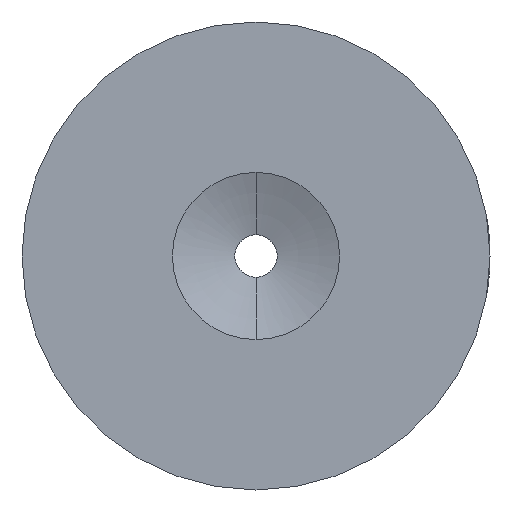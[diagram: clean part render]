
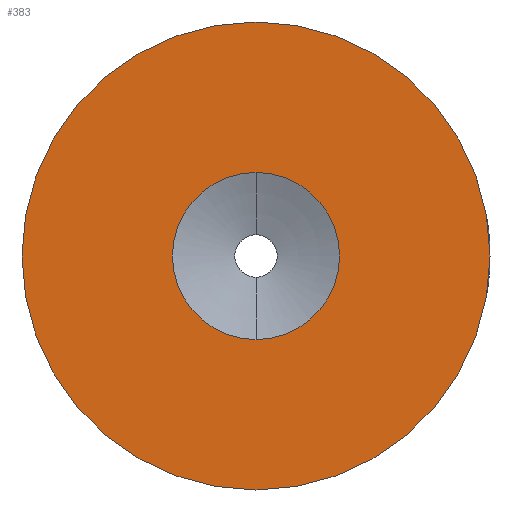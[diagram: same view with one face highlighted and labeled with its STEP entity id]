
A CAD part, left-side view. The second image highlights one B-rep face of the part: STEP entity #383.
In plain terms, the highlighted planar face has unit normal (-1, 0, 0).
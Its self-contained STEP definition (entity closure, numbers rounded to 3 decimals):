
#22 = ORIENTED_EDGE ( 'NONE', *, *, #91, .F. ) ;
#23 = VERTEX_POINT ( 'NONE', #534 ) ;
#41 = CARTESIAN_POINT ( 'NONE',  ( 0., 0., 14. ) ) ;
#48 = CARTESIAN_POINT ( 'NONE',  ( 0., 0., 5. ) ) ;
#52 = EDGE_CURVE ( 'NONE', #503, #23, #277, .T. ) ;
#58 = VERTEX_POINT ( 'NONE', #104 ) ;
#68 = CIRCLE ( 'NONE', #426, 5. ) ;
#76 = AXIS2_PLACEMENT_3D ( 'NONE', #263, #266, #314 ) ;
#91 = EDGE_CURVE ( 'NONE', #327, #58, #272, .T. ) ;
#104 = CARTESIAN_POINT ( 'NONE',  ( 0., 0., -5. ) ) ;
#123 = DIRECTION ( 'NONE',  ( 0., 0., 1. ) ) ;
#124 = EDGE_CURVE ( 'NONE', #23, #503, #235, .T. ) ;
#153 = FACE_OUTER_BOUND ( 'NONE', #515, .T. ) ;
#170 = AXIS2_PLACEMENT_3D ( 'NONE', #427, #244, #547 ) ;
#224 = DIRECTION ( 'NONE',  ( 0., 0., 1. ) ) ;
#226 = DIRECTION ( 'NONE',  ( -1., 0., 0. ) ) ;
#235 = CIRCLE ( 'NONE', #76, 14. ) ;
#244 = DIRECTION ( 'NONE',  ( 1., 0., 0. ) ) ;
#245 = EDGE_CURVE ( 'NONE', #58, #327, #68, .T. ) ;
#261 = DIRECTION ( 'NONE',  ( -1., 0., 0. ) ) ;
#263 = CARTESIAN_POINT ( 'NONE',  ( 0., 0., 0. ) ) ;
#266 = DIRECTION ( 'NONE',  ( -1., 0., 0. ) ) ;
#272 = CIRCLE ( 'NONE', #518, 5. ) ;
#276 = DIRECTION ( 'NONE',  ( 0., 0., 1. ) ) ;
#277 = CIRCLE ( 'NONE', #285, 14. ) ;
#285 = AXIS2_PLACEMENT_3D ( 'NONE', #504, #379, #276 ) ;
#299 = ORIENTED_EDGE ( 'NONE', *, *, #124, .T. ) ;
#314 = DIRECTION ( 'NONE',  ( 0., 0., 1. ) ) ;
#327 = VERTEX_POINT ( 'NONE', #48 ) ;
#334 = ORIENTED_EDGE ( 'NONE', *, *, #52, .T. ) ;
#336 = CARTESIAN_POINT ( 'NONE',  ( 0., 0., 0. ) ) ;
#367 = CARTESIAN_POINT ( 'NONE',  ( 0., 0., 0. ) ) ;
#379 = DIRECTION ( 'NONE',  ( -1., 0., 0. ) ) ;
#383 = ADVANCED_FACE ( 'NONE', ( #481, #153 ), #510, .F. ) ;
#413 = EDGE_LOOP ( 'NONE', ( #22, #485 ) ) ;
#426 = AXIS2_PLACEMENT_3D ( 'NONE', #336, #226, #224 ) ;
#427 = CARTESIAN_POINT ( 'NONE',  ( 0., 1.25, 0. ) ) ;
#481 = FACE_BOUND ( 'NONE', #413, .T. ) ;
#485 = ORIENTED_EDGE ( 'NONE', *, *, #245, .F. ) ;
#503 = VERTEX_POINT ( 'NONE', #41 ) ;
#504 = CARTESIAN_POINT ( 'NONE',  ( 0., 0., 0. ) ) ;
#510 = PLANE ( 'NONE',  #170 ) ;
#515 = EDGE_LOOP ( 'NONE', ( #334, #299 ) ) ;
#518 = AXIS2_PLACEMENT_3D ( 'NONE', #367, #261, #123 ) ;
#534 = CARTESIAN_POINT ( 'NONE',  ( 0., 0., -14. ) ) ;
#547 = DIRECTION ( 'NONE',  ( 0., 0., -1. ) ) ;
